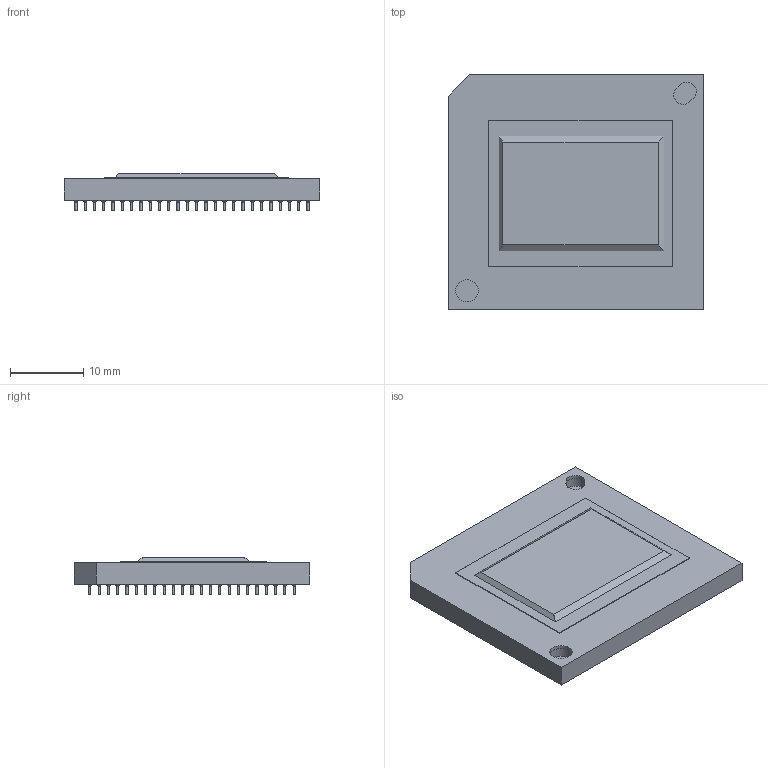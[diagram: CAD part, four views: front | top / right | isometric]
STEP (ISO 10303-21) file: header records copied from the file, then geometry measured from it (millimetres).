
FILE_DESCRIPTION((''),'2;1');
FILE_NAME('C:\Work\Series-600\s600-DMD\2511543-1080p-s600-DMD.stp','2010-12-21T08:32:17',('a0130832'),(''),'Autodesk Inventor 2011','Autodesk Inventor 2011','');
FILE_SCHEMA(('AUTOMOTIVE_DESIGN { 1 0 10303 214 1 1 1 1 }'));
Length unit declared in the file: millimetre
Products named in the file (3): s600-STEP-DMD-assy-wApert; s600-STEP-Ceramic-wApert; s600-STEP-window
Assembly tree (2 placements, depth 2):
  s600-STEP-DMD-assy-wApert
    s600-STEP-Ceramic-wApert
    s600-STEP-window
Bounding box: 35 x 32.2 x 5.05 mm (x, y, z)
Volume: 3318.8 mm3; surface area: 4166.9 mm2
Topology: 2 solids, 2 shells, 1110 faces, 1887 edges, 1140 vertices
Faces by surface type: plane 400, cylinder 360, cone 350
Full cylindrical faces by diameter (mm): 0.305 x350, 3.065 x1, 3.315 x1
Entity records: 23867 total; most frequent: DIRECTION 4485, CARTESIAN_POINT 3440, ORIENTED_EDGE 2370, AXIS2_PLACEMENT_3D 2185, EDGE_LOOP 2171, EDGE_CURVE 1185, VERTEX_POINT 1140, FACE_OUTER_BOUND 1110
